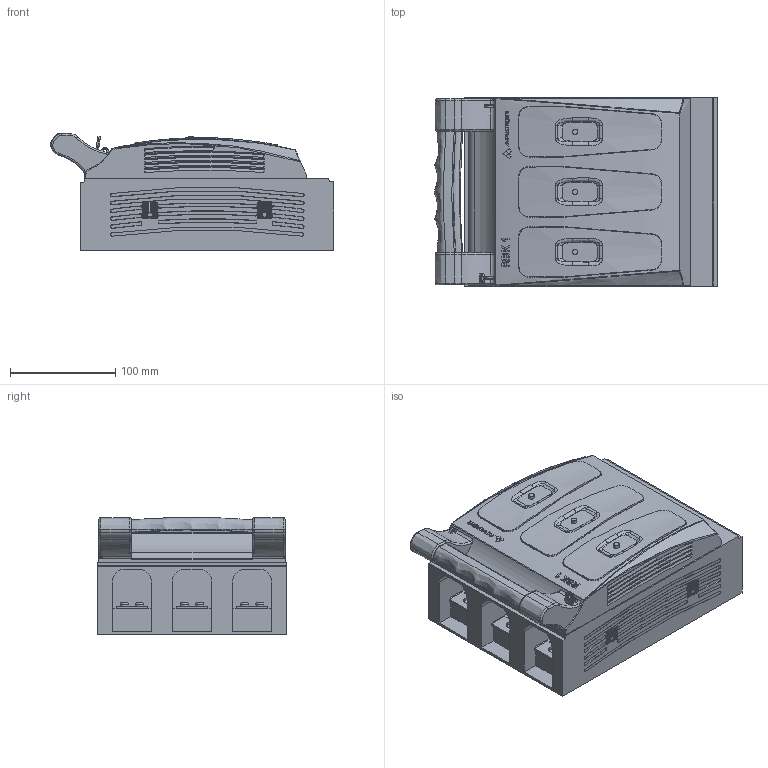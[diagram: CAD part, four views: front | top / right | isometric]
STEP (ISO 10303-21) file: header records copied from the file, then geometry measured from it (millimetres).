
FILE_DESCRIPTION(/* description */ (''),/* implementation_level */ '2;1');
FILE_NAME(/* name */ 'RBK 1 VD-M - 63-811784-081.stp',/* time_stamp */ '2019-03-08T14:46:29+01:00',/* author */ (''),/* organization */ (''),/* preprocessor_version */ 'ST-DEVELOPER v16',/* originating_system */ 'SIEMENS PLM Software NX 10.0',/* authorisation */ '');
FILE_SCHEMA (('AUTOMOTIVE_DESIGN { 1 0 10303 214 3 1 1 1 }'));
Products named in the file (1): 710_23CC0B2D1jsj
Bounding box: 268.9 x 180 x 111 mm (x, y, z)
Surface area: 284884.7 mm2
Topology: 12 solids, 13 shells, 2482 faces, 6595 edges, 4194 vertices
Faces by surface type: plane 1532, bspline 335, cylinder 313, cone 145, torus 81, sphere 30, extrusion 28, revolution 18
Full cylindrical faces by diameter (mm): 4.5 x3, 11 x3
Entity records: 95423 total; most frequent: CARTESIAN_POINT 33146, ORIENTED_EDGE 13002, DIRECTION 12075, EDGE_CURVE 6501, AXIS2_PLACEMENT_3D 4475, VERTEX_POINT 4179, VECTOR 3103, LINE 3075
